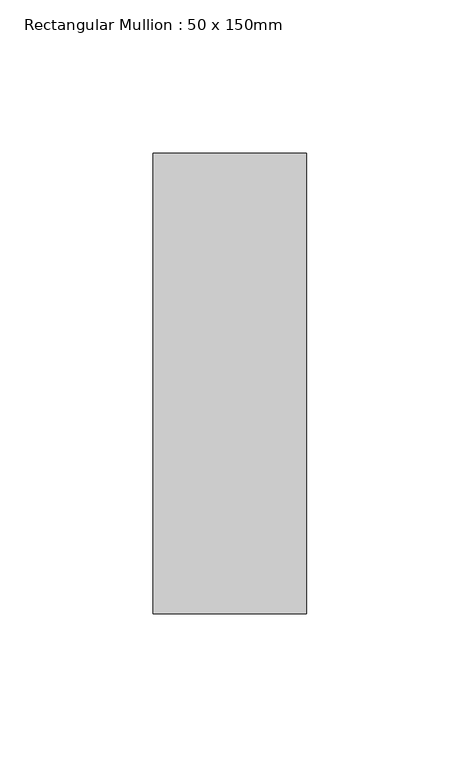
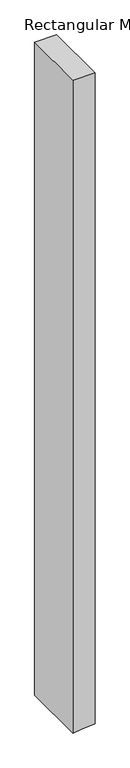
"""IFC4 building model written with IfcOpenShell, lengths in millimetres: member geometry, Rectangular Mullion : 50 x 150mm."""

from ifc_helpers import new_model, si_unit, frame, origin, place, context, project, spatial, polyline, outline, extrude, source, transform, mapped, element, save


def rectangular_mullion_50_x_150mm_2327494a(model_context):
    return source(origin(), model_context, "Body", "SweptSolid", [
        extrude(outline(polyline([(0.0, 25.0), (0.0, -25.0), (-1565.4813972, -25.0), (-1563.4706301, -5.0022633), (-1560.4539105, 25.0), (0.0, 25.0)])), frame((0.0, -75.0, 0.0), z_axis=(0.0, 1.0, 0.0), x_axis=(0.0, 0.0, 1.0)), (0.0, 0.0, 1.0), 150.0),
    ])


if __name__ == "__main__":
    model = new_model("IFC4")
    model_context = context("Model", 3, world=origin())
    ifc_project = project(units=[si_unit("LENGTHUNIT", "METRE", prefix="MILLI")], contexts=[model_context])
    site = spatial("IfcSite", under=ifc_project)
    building = spatial("IfcBuilding", under=site)
    placement = place(None, origin())
    rectangular_mullion_50_x_150mm_shape = rectangular_mullion_50_x_150mm_2327494a(model_context)
    element("IfcMember", 1, ObjectType="Rectangular Mullion : 50 x 150mm", at=placement, inside=building, context=model_context, shape_type="MappedRepresentation", body=[
        mapped(rectangular_mullion_50_x_150mm_shape, transform((0.0, 0.0, 0.0), x_axis=(1.0, 0.0, 0.0), y_axis=(0.0, 1.0, 0.0), z_axis=(0.0, 0.0, 1.0))),
    ])
    save(model, "model.ifc")
